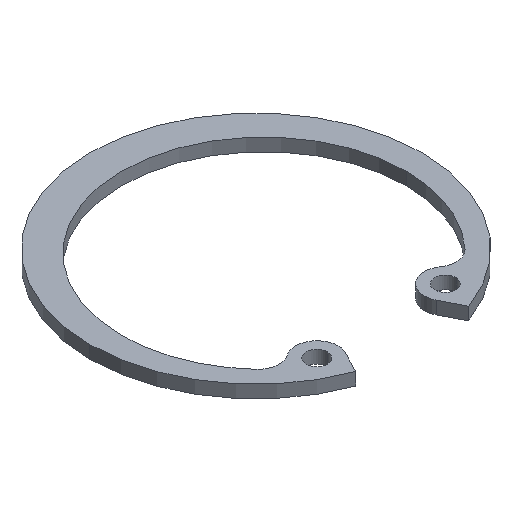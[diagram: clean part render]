
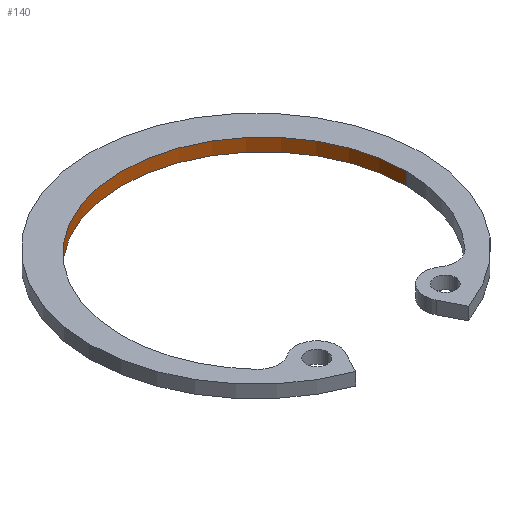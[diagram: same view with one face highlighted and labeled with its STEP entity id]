
A CAD part, isometric view. The second image highlights one B-rep face of the part: STEP entity #140.
In plain terms, the highlighted cylindrical face has radius 13.45 mm (diameter 26.9 mm), a partial arc.
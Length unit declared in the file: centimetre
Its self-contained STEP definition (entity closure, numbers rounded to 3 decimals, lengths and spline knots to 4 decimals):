
#125 = EDGE_CURVE ( 'NONE', #210, #127, #395, .T. ) ;
#127 = VERTEX_POINT ( 'NONE', #390 ) ;
#128 = ORIENTED_EDGE ( 'NONE', *, *, #129, .F. ) ;
#129 = EDGE_CURVE ( 'NONE', #213, #133, #389, .T. ) ;
#132 = ORIENTED_EDGE ( 'NONE', *, *, #134, .T. ) ;
#133 = VERTEX_POINT ( 'NONE', #444 ) ;
#134 = EDGE_CURVE ( 'NONE', #127, #133, #443, .T. ) ;
#136 = ORIENTED_EDGE ( 'NONE', *, *, #125, .T. ) ;
#138 = ORIENTED_EDGE ( 'NONE', *, *, #212, .F. ) ;
#140 = ADVANCED_FACE ( 'NONE', ( #434 ), #433, .F. ) ;
#142 = EDGE_LOOP ( 'NONE', ( #138, #136, #132, #128 ) ) ;
#210 = VERTEX_POINT ( 'NONE', #587 ) ;
#212 = EDGE_CURVE ( 'NONE', #210, #213, #586, .T. ) ;
#213 = VERTEX_POINT ( 'NONE', #582 ) ;
#385 = DIRECTION ( 'NONE',  ( 1., 0., 0. ) ) ;
#386 = DIRECTION ( 'NONE',  ( 0., 0., -1. ) ) ;
#387 = CARTESIAN_POINT ( 'NONE',  ( 0., -1.575, 0.12 ) ) ;
#388 = AXIS2_PLACEMENT_3D ( 'NONE', #387, #386, #385 ) ;
#389 = CIRCLE ( 'NONE', #388, 1.345 ) ;
#390 = CARTESIAN_POINT ( 'NONE',  ( 1.345, -1.575, 0. ) ) ;
#391 = DIRECTION ( 'NONE',  ( 1., 0., 0. ) ) ;
#392 = DIRECTION ( 'NONE',  ( 0., 0., -1. ) ) ;
#393 = CARTESIAN_POINT ( 'NONE',  ( 0., -1.575, 0. ) ) ;
#394 = AXIS2_PLACEMENT_3D ( 'NONE', #393, #392, #391 ) ;
#395 = CIRCLE ( 'NONE', #394, 1.345 ) ;
#428 = DIRECTION ( 'NONE',  ( 1., 0., 0. ) ) ;
#429 = DIRECTION ( 'NONE',  ( 0., 0., 1. ) ) ;
#430 = CARTESIAN_POINT ( 'NONE',  ( 0., -1.575, 0. ) ) ;
#431 = AXIS2_PLACEMENT_3D ( 'NONE', #430, #429, #428 ) ;
#433 = CYLINDRICAL_SURFACE ( 'NONE', #431, 1.345 ) ;
#434 = FACE_OUTER_BOUND ( 'NONE', #142, .T. ) ;
#440 = DIRECTION ( 'NONE',  ( 0., 0., 1. ) ) ;
#441 = VECTOR ( 'NONE', #440, 100. ) ;
#442 = CARTESIAN_POINT ( 'NONE',  ( 1.345, -1.575, 0. ) ) ;
#443 = LINE ( 'NONE', #442, #441 ) ;
#444 = CARTESIAN_POINT ( 'NONE',  ( 1.345, -1.575, 0.12 ) ) ;
#582 = CARTESIAN_POINT ( 'NONE',  ( -1.345, -1.575, 0.12 ) ) ;
#583 = DIRECTION ( 'NONE',  ( 0., 0., 1. ) ) ;
#584 = VECTOR ( 'NONE', #583, 100. ) ;
#585 = CARTESIAN_POINT ( 'NONE',  ( -1.345, -1.575, 0. ) ) ;
#586 = LINE ( 'NONE', #585, #584 ) ;
#587 = CARTESIAN_POINT ( 'NONE',  ( -1.345, -1.575, 0. ) ) ;
